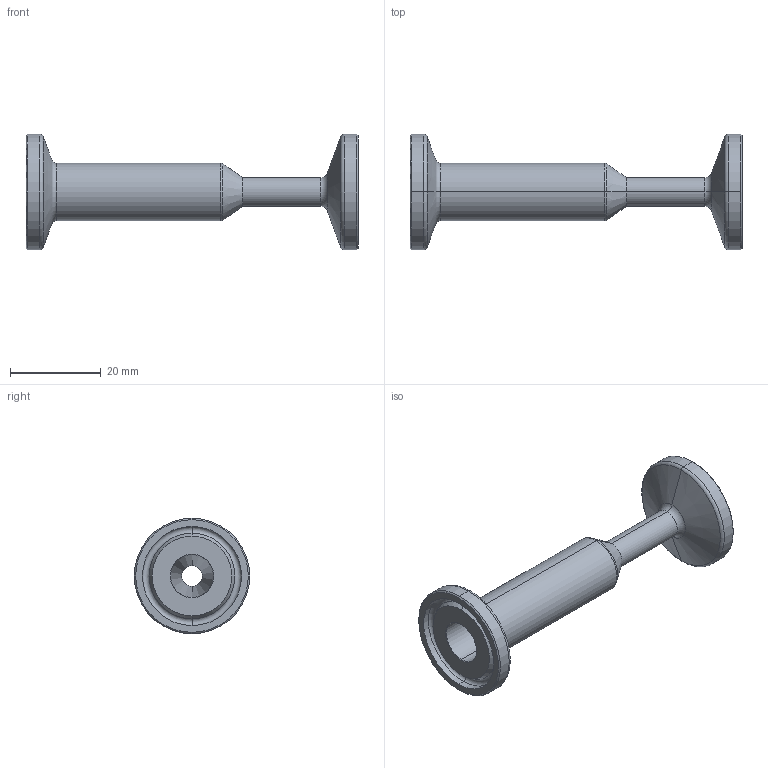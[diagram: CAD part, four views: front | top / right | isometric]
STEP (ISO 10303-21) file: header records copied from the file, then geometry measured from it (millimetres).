
FILE_DESCRIPTION (( 'STEP AP214' ), '1' );
FILE_NAME ('TEG31SCC6I.5x.25.STEP', '2016-05-29T13:12:23', ( 'eran' ), ( '' ), 'SwSTEP 2.0', 'SolidWorks 2016', '' );
FILE_SCHEMA (( 'AUTOMOTIVE_DESIGN' ));
Length unit declared in the file: millimetre
Products named in the file (1): TEG31SCC6I.5x.25
Bounding box: 73.03 x 25.4 x 25.4 mm (x, y, z)
Volume: 7649.4 mm3; surface area: 6053.7 mm2
Topology: 1 solids, 1 shells, 54 faces, 108 edges, 58 vertices
Faces by surface type: cone 18, torus 16, cylinder 16, plane 4
Entity records: 1428 total; most frequent: DIRECTION 292, CARTESIAN_POINT 221, ORIENTED_EDGE 216, AXIS2_PLACEMENT_3D 129, EDGE_CURVE 108, CIRCLE 74, VERTEX_POINT 58, EDGE_LOOP 58
